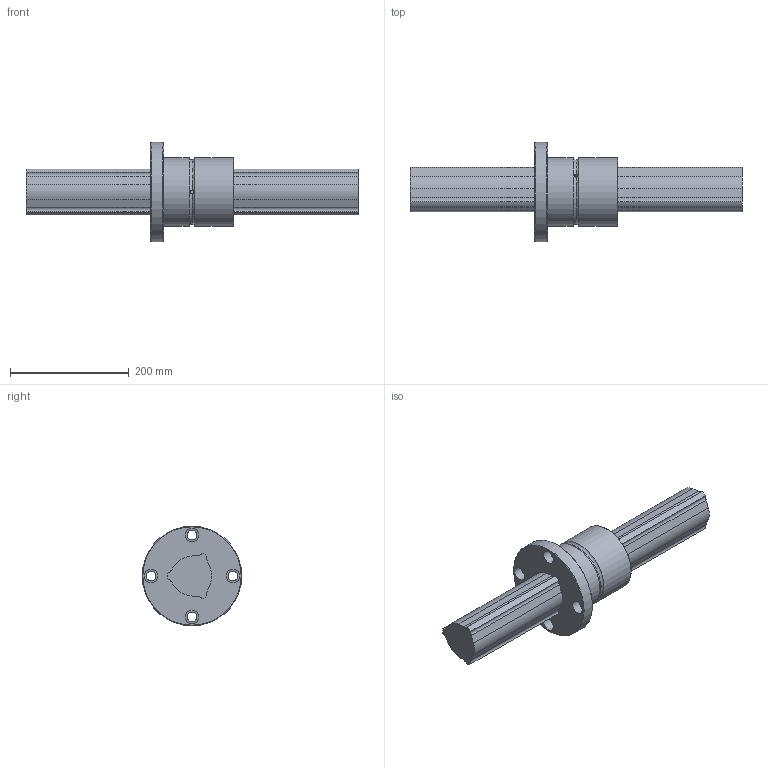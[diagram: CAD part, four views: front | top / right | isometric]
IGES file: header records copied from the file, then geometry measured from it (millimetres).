
Start section: Data from Parasolid IGES Translator 26.0.171, Copyright(c) 2006 Siemens PLM Software. All Rights Reserved.
Global section: file name: LBF85+560L(5602100).igs; native system: By Siemens PLM Incorporated; preprocessor: XPlus GENERIC/IGES 26.0.171; author: Noname; organization: Noname; date: 20240528.034101; units: millimetre
Bounding box: 560 x 168 x 168 mm (x, y, z)
Surface area: 274131.1 mm2 (no closed solid volume)
Topology: 0 solids, 0 shells, 71 faces, 356 edges, 335 vertices
Faces by surface type: revolution 47, extrusion 24
